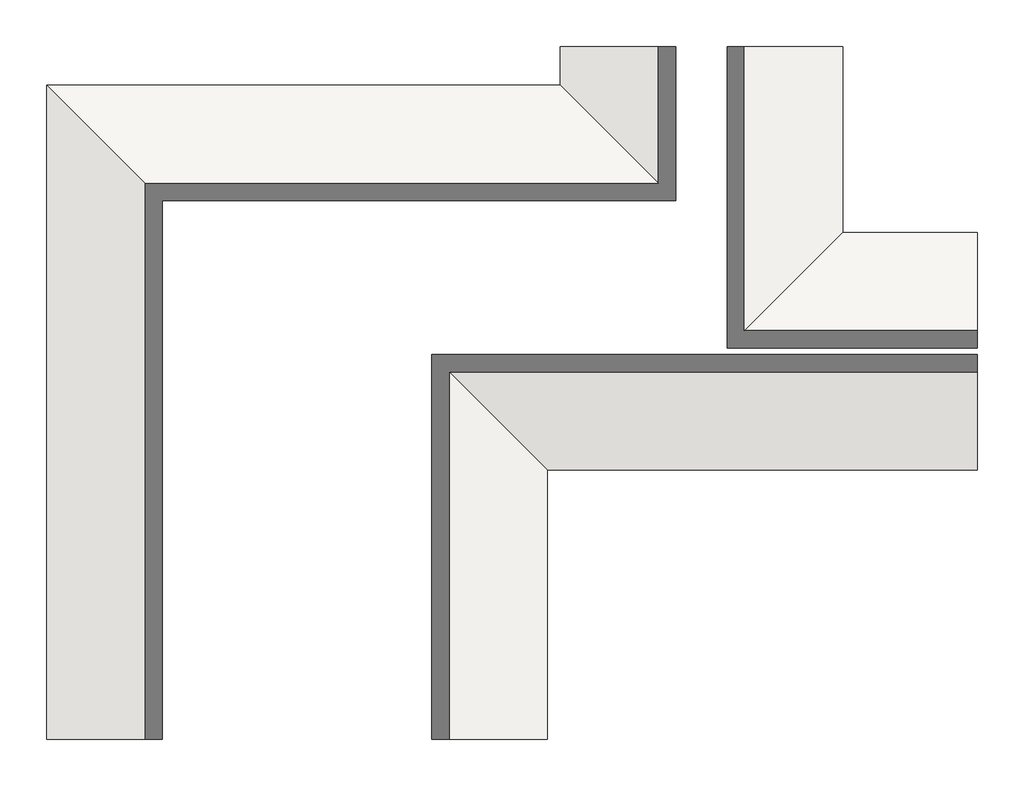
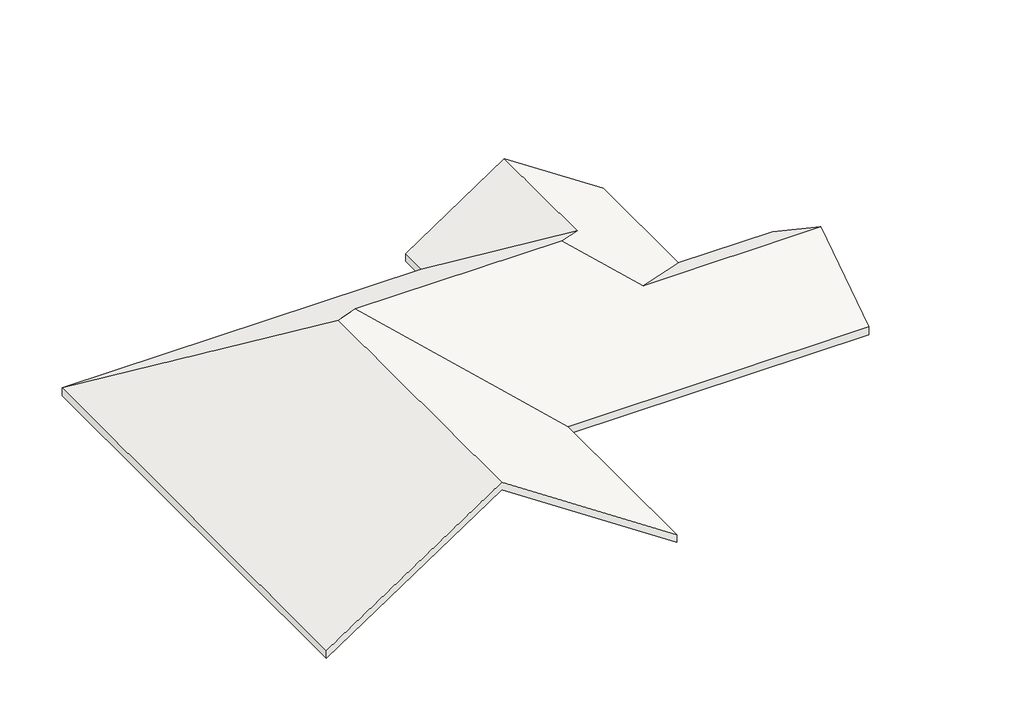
# One storey: 1 roof.
"""IFC4 building model written with IfcOpenShell, lengths in millimetres."""

import ifcopenshell
import ifcopenshell.guid

model = None  # the IFC model being written
_history = None  # IfcOwnerHistory: only IFC2X3 demands one
_inside = {}  # id of a spatial element -> (the spatial element, [elements in it])
_under = {}  # id of a project, library or spatial element -> (it, [spatial elements below it])
_declared = {}  # id of a project -> (the project, [libraries it declares])
_typed = {}  # id of a type object -> (the type object, [elements of that type])
_made_of = {}  # id of a material, layer set ... -> (it, [elements and type objects made of it])


def new_model(schema):
    """Start an empty IFC model of exactly this schema.

    Asked for "IFC4X3", IfcOpenShell would pick the latest addendum, in which some entities
    have other attributes; the version numbers below select the first issue.
    IFC2X3 requires an IfcOwnerHistory on every rooted entity: one is made here for all.
    """
    global model, _history
    if schema == "IFC4X3":
        model = ifcopenshell.file(schema_version=(4, 3, 0, 0))
    else:
        model = ifcopenshell.file(schema=schema)
    _inside.clear()
    _under.clear()
    _declared.clear()
    _typed.clear()
    _made_of.clear()
    _history = None
    if model.schema == "IFC2X3":
        org = make("IfcOrganization", Name="unknown")
        user = make(
            "IfcPersonAndOrganization",
            ThePerson=make("IfcPerson", FamilyName="unknown"),
            TheOrganization=org,
        )
        app = make(
            "IfcApplication",
            ApplicationDeveloper=org,
            Version="unknown",
            ApplicationFullName="unknown",
            ApplicationIdentifier="unknown",
        )
        _history = make(
            "IfcOwnerHistory",
            OwningUser=user,
            OwningApplication=app,
            ChangeAction="ADDED",
            CreationDate=0,
        )
    return model


def make(cls, **values):
    """One entity of the class cls with the attributes given. An attribute that is None is left unset."""
    return model.create_entity(
        cls, **{name: value for name, value in values.items() if value is not None}
    )


def rooted(cls, **values):
    """An entity with a GlobalId (a new one), such as an element, a storey or a relation."""
    return make(cls, GlobalId=ifcopenshell.guid.new(), OwnerHistory=_history, **values)


def si_unit(unit_type, name, prefix=None):
    """IfcSIUnit, for example si_unit("LENGTHUNIT", "METRE", prefix="MILLI")."""
    return make("IfcSIUnit", UnitType=unit_type, Prefix=prefix, Name=name)


def assignment(units):
    """IfcUnitAssignment: the units of a project."""
    return None if units is None else make("IfcUnitAssignment", Units=units)


def point(xyz):
    """IfcCartesianPoint."""
    return None if xyz is None else make("IfcCartesianPoint", Coordinates=xyz)


def direction(xyz):
    """IfcDirection."""
    return None if xyz is None else make("IfcDirection", DirectionRatios=xyz)


def frame(location, z_axis=None, x_axis=None):
    """IfcAxis2Placement3D, a coordinate frame: its origin and axes. An axis left out is left unset."""
    return make(
        "IfcAxis2Placement3D",
        Location=point(location),
        Axis=direction(z_axis),
        RefDirection=direction(x_axis),
    )


def origin():
    """The frame at (0, 0, 0) with its axes left unset."""
    return frame((0.0, 0.0, 0.0))


def place(relative_to, where):
    """IfcLocalPlacement: puts the frame where relative to a parent placement (None: the world)."""
    return make(
        "IfcLocalPlacement", PlacementRelTo=relative_to, RelativePlacement=where
    )


def context(
    kind, dimensions, precision=None, world=None, true_north=None, identifier=None
):
    """IfcGeometricRepresentationContext, for example the 3D "Model" context."""
    return make(
        "IfcGeometricRepresentationContext",
        ContextIdentifier=identifier,
        ContextType=kind,
        CoordinateSpaceDimension=dimensions,
        Precision=precision,
        WorldCoordinateSystem=world,
        TrueNorth=true_north,
    )


def project(units=None, contexts=None):
    """IfcProject with its units and contexts."""
    return rooted(
        "IfcProject",
        Name="project",
        RepresentationContexts=contexts,
        UnitsInContext=assignment(units),
    )


def spatial(cls, under=None, at=None, **own):
    """A site, building, storey or space (cls), placed at a placement, below another one or the project."""
    s = rooted(cls, ObjectPlacement=at, **own)
    if under is not None:
        _under.setdefault(under.id(), (under, []))[1].append(s)
    return s


def faces_of(points, faces, orient=None, outer=None):
    """IfcFace entities. A face is a list of loops; a loop is a list of indices into points, from 0.

    orient and outer hold one flag for each loop. By default every Orientation is true, the
    first loop of a face is its IfcFaceOuterBound and the others are IfcFaceBound.
    """
    made = []
    for i, loops in enumerate(faces):
        bounds = []
        for j, loop in enumerate(loops):
            is_outer = j == 0 if outer is None else outer[i][j]
            bounds.append(
                make(
                    "IfcFaceOuterBound" if is_outer else "IfcFaceBound",
                    Bound=make("IfcPolyLoop", Polygon=[points[k] for k in loop]),
                    Orientation=True if orient is None else orient[i][j],
                )
            )
        made.append(make("IfcFace", Bounds=bounds))
    return made


def faceted_brep(points, faces, orient=None, outer=None, voids=None):
    """IfcFacetedBrep: a solid bounded by flat faces; with voids (closed shells), ...WithVoids."""
    shared = [point(p) for p in points]
    hull = make("IfcClosedShell", CfsFaces=faces_of(shared, faces, orient, outer))
    if voids is None:
        return make("IfcFacetedBrep", Outer=hull)
    return make(
        "IfcFacetedBrepWithVoids",
        Outer=hull,
        Voids=[
            make(cls, CfsFaces=faces_of(shared, fs, o, b)) for cls, fs, o, b in voids
        ],
    )


def shape(context_of_items, identifier, shape_type, items):
    """IfcShapeRepresentation: the items that make up one representation, for example the "Body"."""
    return make(
        "IfcShapeRepresentation",
        ContextOfItems=context_of_items,
        RepresentationIdentifier=identifier,
        RepresentationType=shape_type,
        Items=items,
    )


def made_of(thing, what):
    """Note that an element or type object is made of a material, layer set ...; save() writes the relation."""
    if what is not None:
        _made_of.setdefault(what.id(), (what, []))[1].append(thing)
    return thing


def element(
    cls,
    number,
    at=None,
    inside=None,
    cuts=None,
    type_object=None,
    material=None,
    context=None,
    identifier="Body",
    shape_type=None,
    held_by="IfcProductDefinitionShape",
    body=None,
    shapes=None,
    **own,
):
    """One element of the class cls, such as IfcWall. Its Tag is "e" and its number.

    at: its placement. inside: the storey or other place that contains it. cuts: it is an
    opening in that element (IfcRelVoidsElement). A single representation is given by context,
    identifier, shape_type and body (its items); several are given by shapes. held_by: the class
    of the entity that holds the representations. save() writes the other relations.
    """
    e = rooted(cls, Tag="e%d" % number, ObjectPlacement=at, **own)
    if body is not None:
        shapes = [shape(context, identifier, shape_type, body)]
    if shapes is not None:
        e.Representation = make(held_by, Representations=shapes)
    if inside is not None:
        _inside.setdefault(inside.id(), (inside, []))[1].append(e)
    if cuts is not None:
        rooted(
            "IfcRelVoidsElement", RelatingBuildingElement=cuts, RelatedOpeningElement=e
        )
    if type_object is not None:
        _typed.setdefault(type_object.id(), (type_object, []))[1].append(e)
    return made_of(e, material)


def aggregate(whole, parts):
    """IfcRelAggregates: a whole, such as a stair, and the parts it consists of."""
    return rooted("IfcRelAggregates", RelatingObject=whole, RelatedObjects=parts)


def save(model, path):
    """Write the relations noted so far, then the file.

    IfcRelAggregates (storeys below a building ...), IfcRelContainedInSpatialStructure (elements
    in a storey), IfcRelDefinesByType, IfcRelAssociatesMaterial and IfcRelDeclares: one each for
    every whole, place, type object, material and project.
    """
    for whole, parts in _under.values():
        aggregate(whole, parts)
    for where, things in _inside.values():
        rooted(
            "IfcRelContainedInSpatialStructure",
            RelatedElements=things,
            RelatingStructure=where,
        )
    for kind, things in _typed.values():
        rooted("IfcRelDefinesByType", RelatedObjects=things, RelatingType=kind)
    for what, things in _made_of.values():
        rooted("IfcRelAssociatesMaterial", RelatedObjects=things, RelatingMaterial=what)
    for by, libraries in _declared.values():
        rooted("IfcRelDeclares", RelatingContext=by, RelatedDefinitions=libraries)
    model.write(path)


model = new_model("IFC4")

# Units and contexts
model_context = context("Model", 3, world=origin())
ifc_project = project(units=[si_unit("LENGTHUNIT", "METRE", prefix="MILLI")], contexts=[model_context])

# Site, building, storey
site = spatial("IfcSite", under=ifc_project)
building = spatial("IfcBuilding", under=site)
storey = spatial("IfcBuildingStorey", under=building, Name="标高 2", Elevation=6300.0)

# Roof
placement = place(None, origin())
element("IfcRoof", 1, ObjectType="常规 -150mm", at=placement, inside=storey, context=model_context, shape_type="Brep", body=[
    faceted_brep([(-92089.7870792, 834.5014217, 6300.0), (-88189.7870792, -3065.4985783, 8899.9933608), (-88189.7870792, -9365.4985783, 8899.9933608), (-92089.7870792, -9365.4985783, 6300.0), (-84089.7870792, 834.5014217, 6300.0), (-81889.7870792, -1365.4985783, 7766.6629215), (-82689.7870792, -2165.4985783, 8299.994893), (-87289.7870792, -2165.4985783, 8299.994893), (-84089.7870792, 1434.5014217, 6300.0), (-81889.7870792, 1434.5014217, 7766.6629215), (-79689.7870792, -1465.4985783, 6300.0), (-77589.7870792, -1465.4985783, 6300.0), (-77589.7870792, -3315.4985783, 7533.330184), (-81539.7870792, -3315.4985783, 7533.330184), (-79689.7870792, 1434.5014217, 6300.0), (-84289.7870792, -9365.4985783, 6300.0), (-84289.7870792, -5165.4985783, 6300.0), (-77589.7870792, -5165.4985783, 6300.0), (-92089.7870792, 834.5014217, 6480.2774221), (-92089.7870792, -9365.4985783, 6480.2774221), (-88189.7870792, -9365.4985783, 9080.270783), (-88189.7870792, -3065.4985783, 9080.270783), (-84089.7870792, 834.5014217, 6480.2774221), (-87289.7870792, -2165.4985783, 8480.2723151), (-82689.7870792, -2165.4985783, 8480.2723151), (-81889.7870792, -1365.4985783, 7946.9403436), (-84089.7870792, 1434.5014217, 6480.2774221), (-81889.7870792, 1434.5014217, 7946.9403436), (-77589.7870792, -1465.4985783, 6480.2774221), (-79689.7870792, -1465.4985783, 6480.2774221), (-81539.7870792, -3315.4985783, 7713.6076061), (-77589.7870792, -3315.4985783, 7713.6076061), (-79689.7870792, 1434.5014217, 6480.2774221), (-84289.7870792, -9365.4985783, 6480.2774221), (-84289.7870792, -5165.4985783, 6480.2774221), (-77589.7870792, -5165.4985783, 6480.2774221)], [[[0, 1, 2, 3]], [[4, 5, 6, 7, 1, 0]], [[8, 9, 5, 4]], [[10, 11, 12, 13]], [[14, 10, 13, 6, 5, 9]], [[15, 2, 1, 7, 16]], [[16, 7, 6, 13, 12, 17]], [[18, 19, 20, 21]], [[22, 18, 21, 23, 24, 25]], [[26, 22, 25, 27]], [[28, 29, 30, 31]], [[32, 27, 25, 24, 30, 29]], [[33, 34, 23, 21, 20]], [[34, 35, 31, 30, 24, 23]], [[4, 22, 26, 8]], [[0, 18, 22, 4]], [[3, 19, 18, 0]], [[16, 34, 33, 15]], [[17, 35, 34, 16]], [[10, 29, 28, 11]], [[14, 32, 29, 10]], [[26, 27, 32, 14, 9, 8]], [[28, 31, 35, 17, 12, 11]], [[33, 20, 19, 3, 2, 15]]]),
])

save(model, "model.ifc")
